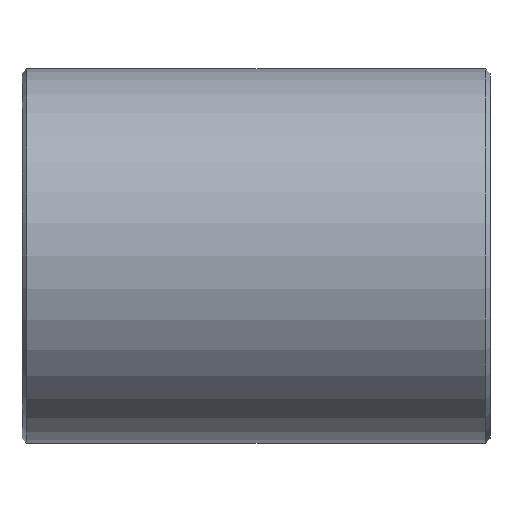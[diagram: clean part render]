
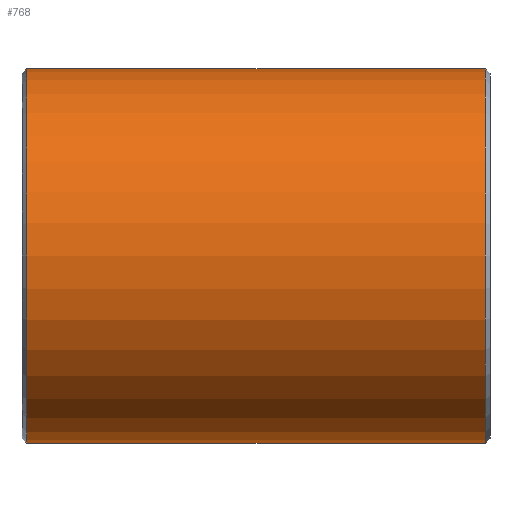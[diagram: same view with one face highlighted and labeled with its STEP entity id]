
A CAD part, left-side view. The second image highlights one B-rep face of the part: STEP entity #768.
In plain terms, the highlighted cylindrical face has radius 20 mm (diameter 40 mm), a partial arc.
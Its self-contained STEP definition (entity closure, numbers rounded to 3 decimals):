
#53 = ORIENTED_EDGE ( 'NONE', *, *, #975, .F. ) ;
#63 = VECTOR ( 'NONE', #500, 1000. ) ;
#117 = DIRECTION ( 'NONE',  ( 0., 0., 1. ) ) ;
#178 = DIRECTION ( 'NONE',  ( 0., 1., 0. ) ) ;
#252 = VERTEX_POINT ( 'NONE', #506 ) ;
#298 = VECTOR ( 'NONE', #178, 1000. ) ;
#327 = FACE_OUTER_BOUND ( 'NONE', #1310, .T. ) ;
#343 = CARTESIAN_POINT ( 'NONE',  ( 0., -48., -20. ) ) ;
#359 = DIRECTION ( 'NONE',  ( 0., 1., 0. ) ) ;
#404 = LINE ( 'NONE', #930, #63 ) ;
#420 = CARTESIAN_POINT ( 'NONE',  ( 0., 1., -20. ) ) ;
#426 = ORIENTED_EDGE ( 'NONE', *, *, #505, .T. ) ;
#443 = VERTEX_POINT ( 'NONE', #420 ) ;
#500 = DIRECTION ( 'NONE',  ( 0., 1., 0. ) ) ;
#505 = EDGE_CURVE ( 'NONE', #252, #443, #658, .T. ) ;
#506 = CARTESIAN_POINT ( 'NONE',  ( 0., 1., 20. ) ) ;
#568 = CARTESIAN_POINT ( 'NONE',  ( 0., -48., 20. ) ) ;
#600 = EDGE_CURVE ( 'NONE', #704, #828, #872, .T. ) ;
#658 = CIRCLE ( 'NONE', #1083, 20. ) ;
#663 = DIRECTION ( 'NONE',  ( 0., 0., -1. ) ) ;
#664 = CYLINDRICAL_SURFACE ( 'NONE', #1245, 20. ) ;
#689 = CARTESIAN_POINT ( 'NONE',  ( 0., 65.513, 0. ) ) ;
#704 = VERTEX_POINT ( 'NONE', #343 ) ;
#705 = ORIENTED_EDGE ( 'NONE', *, *, #600, .T. ) ;
#713 = LINE ( 'NONE', #1103, #298 ) ;
#737 = CARTESIAN_POINT ( 'NONE',  ( 0., 1., 0. ) ) ;
#740 = AXIS2_PLACEMENT_3D ( 'NONE', #884, #763, #663 ) ;
#763 = DIRECTION ( 'NONE',  ( 0., 1., 0. ) ) ;
#768 = ADVANCED_FACE ( 'NONE', ( #327 ), #664, .T. ) ;
#807 = EDGE_CURVE ( 'NONE', #828, #252, #713, .T. ) ;
#828 = VERTEX_POINT ( 'NONE', #568 ) ;
#872 = CIRCLE ( 'NONE', #740, 20. ) ;
#884 = CARTESIAN_POINT ( 'NONE',  ( 0., -48., 0. ) ) ;
#930 = CARTESIAN_POINT ( 'NONE',  ( 0., 65.513, -20. ) ) ;
#975 = EDGE_CURVE ( 'NONE', #704, #443, #404, .T. ) ;
#1083 = AXIS2_PLACEMENT_3D ( 'NONE', #737, #1174, #117 ) ;
#1103 = CARTESIAN_POINT ( 'NONE',  ( 0., 65.513, 20. ) ) ;
#1146 = ORIENTED_EDGE ( 'NONE', *, *, #807, .T. ) ;
#1174 = DIRECTION ( 'NONE',  ( 0., -1., 0. ) ) ;
#1245 = AXIS2_PLACEMENT_3D ( 'NONE', #689, #359, #1319 ) ;
#1310 = EDGE_LOOP ( 'NONE', ( #53, #705, #1146, #426 ) ) ;
#1319 = DIRECTION ( 'NONE',  ( 0., 0., 1. ) ) ;
